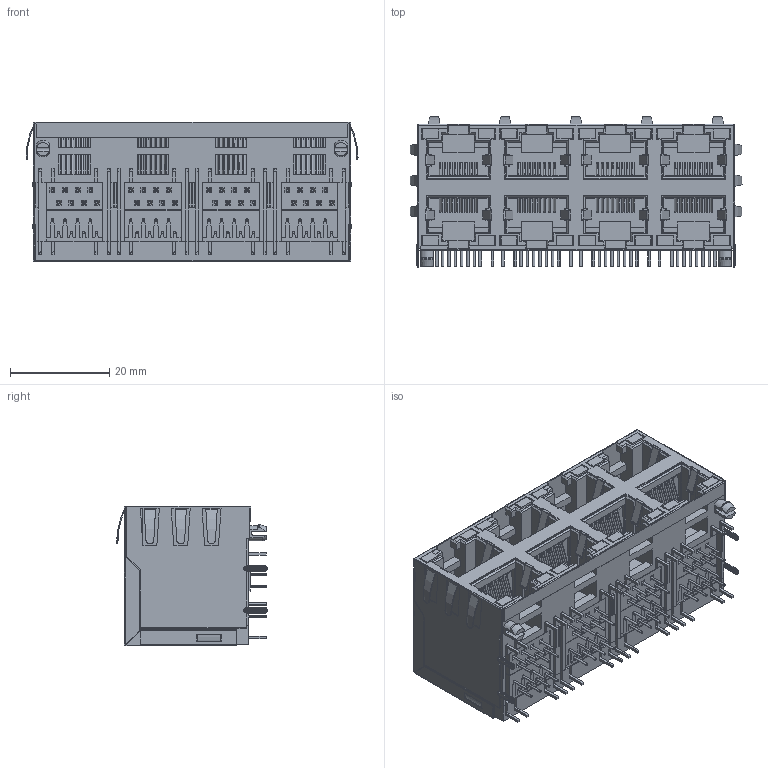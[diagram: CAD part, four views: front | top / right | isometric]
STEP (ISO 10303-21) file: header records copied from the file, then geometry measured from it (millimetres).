
FILE_DESCRIPTION((''),'2;1');
FILE_NAME('59212488D-022_ASM','2019-09-18T09:47:29',('Administrator'),(''),'CREO PARAMETRIC BY PTC INC, 2018400','CREO PARAMETRIC BY PTC INC, 2018400','');
FILE_SCHEMA(('CONFIG_CONTROL_DESIGN'));
Products named in the file (11): 59212488D-022-SU; CAXING; ZHEN-Y-1; XIAN-Y-006; LED-ZHEN; CAXINGFAN; BEIBU; HOUBAN; 59212488D-022-TONG; LED; 59212488D-022_ASM
Assembly tree (191 placements, depth 2):
  59212488D-022_ASM
    59212488D-022-SU
    CAXING  x4
    ZHEN-Y-1  x64
    XIAN-Y-006  x64
    LED-ZHEN  x32
    CAXINGFAN  x4
    BEIBU  x4
    HOUBAN
    59212488D-022-TONG
    LED  x16
Bounding box: 66.76 x 30.26 x 28.15 mm (x, y, z)
Volume: 27923.3 mm3; surface area: 54640.6 mm2
Topology: 191 solids, 191 shells, 4888 faces, 12279 edges, 7736 vertices
Faces by surface type: plane 3345, cylinder 1085, torus 280, cone 102, bspline 76
Entity records: 78691 total; most frequent: CARTESIAN_POINT 16838, ORIENTED_EDGE 13074, DIRECTION 12041, EDGE_CURVE 6537, VECTOR 5717, LINE 5717, VERTEX_POINT 4128, AXIS2_PLACEMENT_3D 3162
